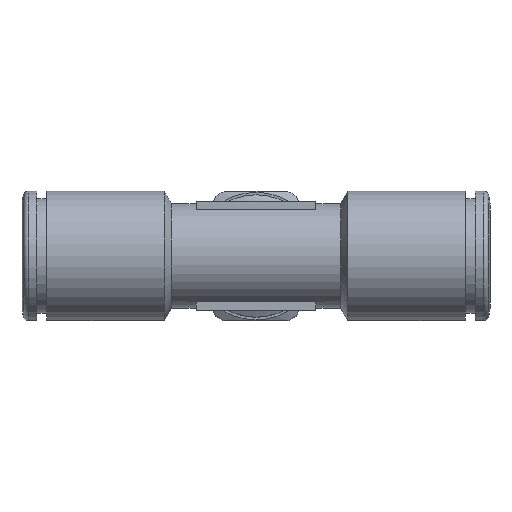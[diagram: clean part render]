
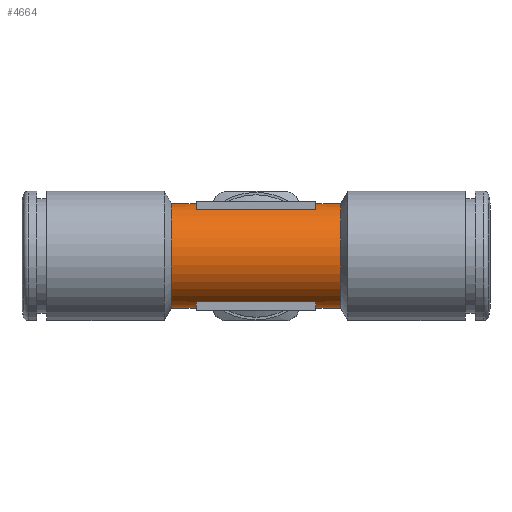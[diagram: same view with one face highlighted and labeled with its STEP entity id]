
A CAD part, top view. The second image highlights one B-rep face of the part: STEP entity #4664.
In plain terms, the highlighted cylindrical face has radius 5.25 mm (diameter 10.5 mm), a full revolution.
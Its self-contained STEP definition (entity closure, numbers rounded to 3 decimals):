
#12=ELLIPSE('',#4517,7.425,5.25);
#13=ELLIPSE('',#4520,7.425,5.25);
#1098=VECTOR('',#3718,1.);
#1099=VECTOR('',#3721,1.);
#1100=VECTOR('',#3724,1.);
#1101=VECTOR('',#3727,1.);
#1102=VECTOR('',#3730,1.);
#1103=VECTOR('',#3733,1.);
#1152=LINE('',#4178,#1098);
#1153=LINE('',#4182,#1099);
#1154=LINE('',#4186,#1100);
#1155=LINE('',#4190,#1101);
#1156=LINE('',#4194,#1102);
#1157=LINE('',#4198,#1103);
#1495=ORIENTED_EDGE('',*,*,#1984,.F.);
#1496=ORIENTED_EDGE('',*,*,#1985,.T.);
#1497=ORIENTED_EDGE('',*,*,#1986,.F.);
#1498=ORIENTED_EDGE('',*,*,#1987,.F.);
#1499=ORIENTED_EDGE('',*,*,#1988,.F.);
#1500=ORIENTED_EDGE('',*,*,#1989,.T.);
#1501=ORIENTED_EDGE('',*,*,#1990,.F.);
#1502=ORIENTED_EDGE('',*,*,#1991,.F.);
#1503=ORIENTED_EDGE('',*,*,#1992,.F.);
#1504=ORIENTED_EDGE('',*,*,#1993,.F.);
#1505=ORIENTED_EDGE('',*,*,#1994,.F.);
#1506=ORIENTED_EDGE('',*,*,#1995,.T.);
#1507=ORIENTED_EDGE('',*,*,#1996,.F.);
#1508=ORIENTED_EDGE('',*,*,#1997,.F.);
#1712=CIRCLE('',#4513,5.25);
#1713=CIRCLE('',#4515,5.25);
#1714=CIRCLE('',#4516,5.25);
#1715=CIRCLE('',#4518,5.25);
#1716=CIRCLE('',#4519,5.25);
#1717=CIRCLE('',#4521,5.25);
#1826=VERTEX_POINT('',#4171);
#1827=VERTEX_POINT('',#4174);
#1828=VERTEX_POINT('',#4176);
#1829=VERTEX_POINT('',#4177);
#1830=VERTEX_POINT('',#4179);
#1831=VERTEX_POINT('',#4181);
#1832=VERTEX_POINT('',#4183);
#1833=VERTEX_POINT('',#4185);
#1834=VERTEX_POINT('',#4187);
#1835=VERTEX_POINT('',#4189);
#1836=VERTEX_POINT('',#4191);
#1837=VERTEX_POINT('',#4193);
#1838=VERTEX_POINT('',#4195);
#1839=VERTEX_POINT('',#4197);
#1984=EDGE_CURVE('',#1826,#1826,#1712,.T.);
#1985=EDGE_CURVE('',#1827,#1827,#1713,.T.);
#1986=EDGE_CURVE('',#1828,#1829,#1152,.T.);
#1987=EDGE_CURVE('',#1830,#1828,#1714,.T.);
#1988=EDGE_CURVE('',#1831,#1830,#1153,.T.);
#1989=EDGE_CURVE('',#1831,#1832,#12,.T.);
#1990=EDGE_CURVE('',#1833,#1832,#1154,.T.);
#1991=EDGE_CURVE('',#1834,#1833,#1715,.T.);
#1992=EDGE_CURVE('',#1835,#1834,#1155,.T.);
#1993=EDGE_CURVE('',#1836,#1835,#1716,.T.);
#1994=EDGE_CURVE('',#1837,#1836,#1156,.T.);
#1995=EDGE_CURVE('',#1837,#1838,#13,.T.);
#1996=EDGE_CURVE('',#1839,#1838,#1157,.T.);
#1997=EDGE_CURVE('',#1829,#1839,#1717,.T.);
#2186=EDGE_LOOP('',(#1495));
#2187=EDGE_LOOP('',(#1496));
#2188=EDGE_LOOP('',(#1497,#1498,#1499,#1500,#1501,#1502,#1503,#1504,#1505,
#1506,#1507,#1508));
#2380=FACE_BOUND('',#2186,.T.);
#2381=FACE_BOUND('',#2187,.T.);
#2382=FACE_BOUND('',#2188,.T.);
#2468=CYLINDRICAL_SURFACE('',#4514,5.25);
#3712=DIRECTION('',(1.,0.,0.));
#3713=DIRECTION('',(0.,5.25,0.));
#3714=DIRECTION('',(-1.,0.,0.));
#3715=DIRECTION('',(0.,1.,0.));
#3716=DIRECTION('',(1.,0.,0.));
#3717=DIRECTION('',(0.,5.25,0.));
#3718=DIRECTION('',(-12.,0.,0.));
#3719=DIRECTION('',(-1.,0.,0.));
#3720=DIRECTION('',(0.,-2.5,4.617));
#3721=DIRECTION('',(3.5,0.,0.));
#3722=DIRECTION('',(0.707,0.707,0.));
#3723=DIRECTION('',(0.707,-0.707,0.));
#3724=DIRECTION('',(-3.5,0.,0.));
#3725=DIRECTION('',(-1.,0.,0.));
#3726=DIRECTION('',(0.,2.5,-4.617));
#3727=DIRECTION('',(12.,0.,0.));
#3728=DIRECTION('',(1.,0.,0.));
#3729=DIRECTION('',(0.,-2.5,-4.617));
#3730=DIRECTION('',(-3.5,0.,0.));
#3731=DIRECTION('',(-0.707,0.707,0.));
#3732=DIRECTION('',(-0.707,-0.707,0.));
#3733=DIRECTION('',(3.5,0.,0.));
#3734=DIRECTION('',(1.,0.,0.));
#3735=DIRECTION('',(0.,2.5,4.617));
#4171=CARTESIAN_POINT('',(33.945,42.731,0.));
#4172=CARTESIAN_POINT('',(33.945,37.481,0.));
#4173=CARTESIAN_POINT('',(33.945,37.481,0.));
#4174=CARTESIAN_POINT('',(16.945,42.731,0.));
#4175=CARTESIAN_POINT('',(16.945,37.481,0.));
#4176=CARTESIAN_POINT('',(31.445,39.981,4.617));
#4177=CARTESIAN_POINT('',(19.445,39.981,4.617));
#4178=CARTESIAN_POINT('',(31.445,39.981,4.617));
#4179=CARTESIAN_POINT('',(31.445,34.981,4.617));
#4180=CARTESIAN_POINT('',(31.445,37.481,0.));
#4181=CARTESIAN_POINT('',(27.945,34.981,4.617));
#4182=CARTESIAN_POINT('',(27.945,34.981,4.617));
#4183=CARTESIAN_POINT('',(27.945,34.981,-4.617));
#4184=CARTESIAN_POINT('',(25.445,37.481,0.));
#4185=CARTESIAN_POINT('',(31.445,34.981,-4.617));
#4186=CARTESIAN_POINT('',(31.445,34.981,-4.617));
#4187=CARTESIAN_POINT('',(31.445,39.981,-4.617));
#4188=CARTESIAN_POINT('',(31.445,37.481,0.));
#4189=CARTESIAN_POINT('',(19.445,39.981,-4.617));
#4190=CARTESIAN_POINT('',(19.445,39.981,-4.617));
#4191=CARTESIAN_POINT('',(19.445,34.981,-4.617));
#4192=CARTESIAN_POINT('',(19.445,37.481,0.));
#4193=CARTESIAN_POINT('',(22.945,34.981,-4.617));
#4194=CARTESIAN_POINT('',(22.945,34.981,-4.617));
#4195=CARTESIAN_POINT('',(22.945,34.981,4.617));
#4196=CARTESIAN_POINT('',(25.445,37.481,0.));
#4197=CARTESIAN_POINT('',(19.445,34.981,4.617));
#4198=CARTESIAN_POINT('',(19.445,34.981,4.617));
#4199=CARTESIAN_POINT('',(19.445,37.481,0.));
#4513=AXIS2_PLACEMENT_3D('',#4172,#3712,#3713);
#4514=AXIS2_PLACEMENT_3D('',#4173,#3714,#3715);
#4515=AXIS2_PLACEMENT_3D('',#4175,#3716,#3717);
#4516=AXIS2_PLACEMENT_3D('',#4180,#3719,#3720);
#4517=AXIS2_PLACEMENT_3D('',#4184,#3722,#3723);
#4518=AXIS2_PLACEMENT_3D('',#4188,#3725,#3726);
#4519=AXIS2_PLACEMENT_3D('',#4192,#3728,#3729);
#4520=AXIS2_PLACEMENT_3D('',#4196,#3731,#3732);
#4521=AXIS2_PLACEMENT_3D('',#4199,#3734,#3735);
#4664=ADVANCED_FACE('',(#2380,#2381,#2382),#2468,.T.);
